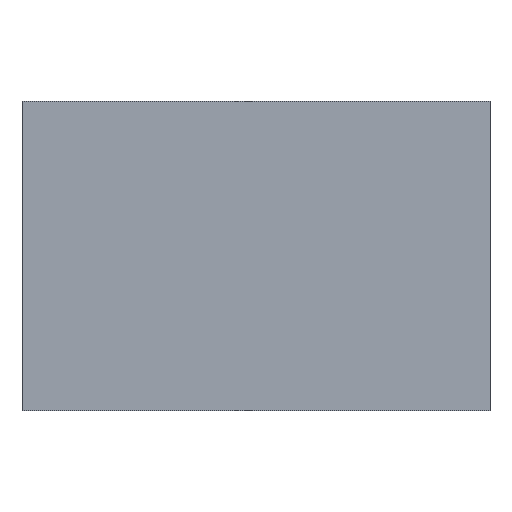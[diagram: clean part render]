
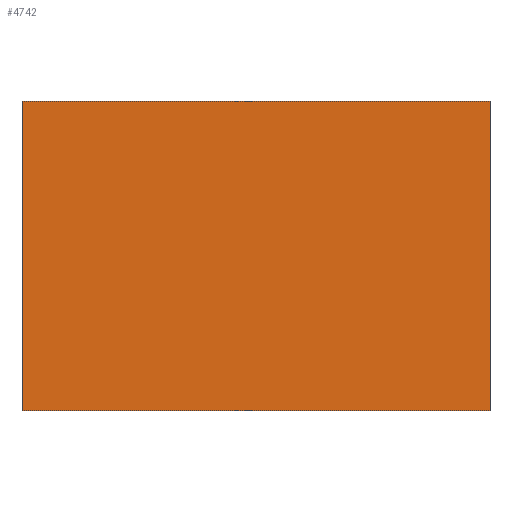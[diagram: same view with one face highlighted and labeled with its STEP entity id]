
A CAD part, top view. The second image highlights one B-rep face of the part: STEP entity #4742.
In plain terms, the highlighted planar face has unit normal (0, 0, 1).
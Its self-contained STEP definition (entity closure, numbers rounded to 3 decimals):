
#73=DIRECTION('',(-1.,0.,0.));
#74=VECTOR('',#73,158.749);
#75=CARTESIAN_POINT('',(79.375,52.5,55.));
#76=LINE('',#75,#74);
#85=DIRECTION('',(0.,-1.,0.));
#86=VECTOR('',#85,105.);
#87=CARTESIAN_POINT('',(79.375,52.5,55.));
#88=LINE('',#87,#86);
#89=DIRECTION('',(0.,1.,0.));
#90=VECTOR('',#89,105.);
#91=CARTESIAN_POINT('',(-79.375,-52.5,55.));
#92=LINE('',#91,#90);
#105=DIRECTION('',(1.,0.,0.));
#106=VECTOR('',#105,158.749);
#107=CARTESIAN_POINT('',(-79.375,-52.5,55.));
#108=LINE('',#107,#106);
#3469=CARTESIAN_POINT('',(79.375,52.5,55.));
#3470=CARTESIAN_POINT('',(79.375,-52.5,55.));
#3471=VERTEX_POINT('',#3469);
#3472=VERTEX_POINT('',#3470);
#3481=CARTESIAN_POINT('',(-79.375,-52.5,55.));
#3482=CARTESIAN_POINT('',(-79.375,52.5,55.));
#3483=VERTEX_POINT('',#3481);
#3484=VERTEX_POINT('',#3482);
#4728=CARTESIAN_POINT('',(0.,0.,55.));
#4729=DIRECTION('',(0.,0.,1.));
#4730=DIRECTION('',(0.,-1.,0.));
#4731=AXIS2_PLACEMENT_3D('',#4728,#4729,#4730);
#4732=PLANE('',#4731);
#4733=ORIENTED_EDGE('',*,*,#4718,.F.);
#4735=ORIENTED_EDGE('',*,*,#4734,.T.);
#4737=ORIENTED_EDGE('',*,*,#4736,.F.);
#4739=ORIENTED_EDGE('',*,*,#4738,.T.);
#4740=EDGE_LOOP('',(#4733,#4735,#4737,#4739));
#4741=FACE_OUTER_BOUND('',#4740,.F.);
#4742=ADVANCED_FACE('',(#4741),#4732,.T.);
#4718=EDGE_CURVE('',#3471,#3484,#76,.T.);
#4734=EDGE_CURVE('',#3471,#3472,#88,.T.);
#4736=EDGE_CURVE('',#3483,#3472,#108,.T.);
#4738=EDGE_CURVE('',#3483,#3484,#92,.T.);
